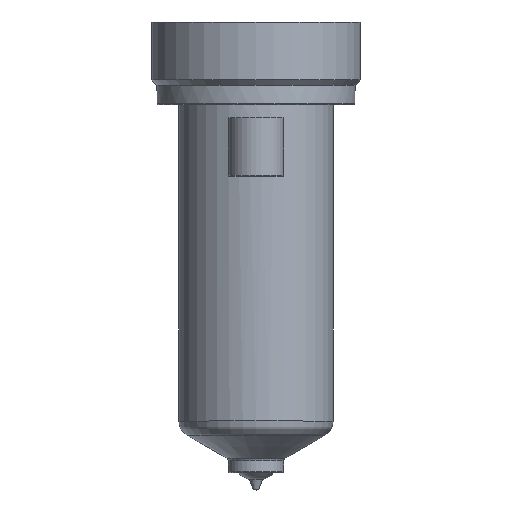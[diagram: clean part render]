
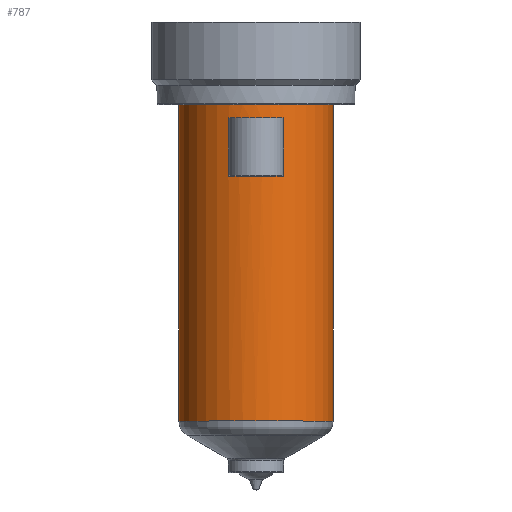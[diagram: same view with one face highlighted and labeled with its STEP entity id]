
A CAD part, top view. The second image highlights one B-rep face of the part: STEP entity #787.
In plain terms, the highlighted cylindrical face has radius 14 mm (diameter 28 mm), a partial arc.
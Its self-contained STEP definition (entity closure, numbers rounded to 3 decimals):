
#195=DIRECTION('',(0.,-1.,0.));
#196=VECTOR('',#195,57.483);
#197=CARTESIAN_POINT('',(14.,0.,0.));
#198=LINE('',#197,#196);
#199=CARTESIAN_POINT('',(0.,-57.483,0.));
#200=DIRECTION('',(0.,1.,0.));
#201=DIRECTION('',(-1.,0.,0.));
#202=AXIS2_PLACEMENT_3D('',#199,#200,#201);
#204=DIRECTION('',(0.,1.,0.));
#205=VECTOR('',#204,57.483);
#206=CARTESIAN_POINT('',(-14.,-57.483,0.));
#207=LINE('',#206,#205);
#208=CARTESIAN_POINT('',(0.,0.,0.));
#209=DIRECTION('',(0.,1.,0.));
#210=DIRECTION('',(-1.,0.,0.));
#211=AXIS2_PLACEMENT_3D('',#208,#209,#210);
#357=DIRECTION('',(0.,-1.,0.));
#358=VECTOR('',#357,10.5);
#359=CARTESIAN_POINT('',(-5.,-2.5,13.077));
#360=LINE('',#359,#358);
#365=CARTESIAN_POINT('',(0.,-13.,0.));
#366=DIRECTION('',(0.,1.,0.));
#367=DIRECTION('',(-0.357,0.,0.934));
#368=AXIS2_PLACEMENT_3D('',#365,#366,#367);
#400=CARTESIAN_POINT('',(0.,-2.5,0.));
#401=DIRECTION('',(0.,-1.,0.));
#402=DIRECTION('',(0.357,0.,0.934));
#403=AXIS2_PLACEMENT_3D('',#400,#401,#402);
#405=DIRECTION('',(0.,-1.,0.));
#406=VECTOR('',#405,10.5);
#407=CARTESIAN_POINT('',(5.,-2.5,13.077));
#408=LINE('',#407,#406);
#466=CARTESIAN_POINT('',(-14.,0.,0.));
#467=CARTESIAN_POINT('',(14.,0.,0.));
#468=VERTEX_POINT('',#466);
#469=VERTEX_POINT('',#467);
#478=CARTESIAN_POINT('',(5.,-2.5,13.077));
#479=VERTEX_POINT('',#478);
#480=CARTESIAN_POINT('',(-5.,-2.5,13.077));
#481=VERTEX_POINT('',#480);
#518=CARTESIAN_POINT('',(14.,-57.483,0.));
#519=VERTEX_POINT('',#518);
#528=CARTESIAN_POINT('',(-14.,-57.483,0.));
#529=VERTEX_POINT('',#528);
#546=CARTESIAN_POINT('',(-5.,-13.,13.077));
#547=CARTESIAN_POINT('',(5.,-13.,13.077));
#548=VERTEX_POINT('',#546);
#549=VERTEX_POINT('',#547);
#765=CARTESIAN_POINT('',(0.,16.4,0.));
#766=DIRECTION('',(0.,-1.,0.));
#767=DIRECTION('',(-1.,0.,0.));
#768=AXIS2_PLACEMENT_3D('',#765,#766,#767);
#769=CYLINDRICAL_SURFACE('',#768,14.);
#770=ORIENTED_EDGE('',*,*,#759,.T.);
#772=ORIENTED_EDGE('',*,*,#771,.F.);
#773=ORIENTED_EDGE('',*,*,#755,.T.);
#774=ORIENTED_EDGE('',*,*,#745,.T.);
#775=EDGE_LOOP('',(#770,#772,#773,#774));
#776=FACE_OUTER_BOUND('',#775,.F.);
#778=ORIENTED_EDGE('',*,*,#777,.T.);
#780=ORIENTED_EDGE('',*,*,#779,.T.);
#782=ORIENTED_EDGE('',*,*,#781,.F.);
#784=ORIENTED_EDGE('',*,*,#783,.T.);
#785=EDGE_LOOP('',(#778,#780,#782,#784));
#786=FACE_BOUND('',#785,.F.);
#787=ADVANCED_FACE('',(#776,#786),#769,.T.);
#203=CIRCLE('',#202,14.);
#212=CIRCLE('',#211,14.);
#369=CIRCLE('',#368,14.);
#404=CIRCLE('',#403,14.);
#745=EDGE_CURVE('',#468,#469,#212,.T.);
#755=EDGE_CURVE('',#529,#468,#207,.T.);
#759=EDGE_CURVE('',#469,#519,#198,.T.);
#771=EDGE_CURVE('',#529,#519,#203,.T.);
#777=EDGE_CURVE('',#481,#548,#360,.T.);
#779=EDGE_CURVE('',#548,#549,#369,.T.);
#781=EDGE_CURVE('',#479,#549,#408,.T.);
#783=EDGE_CURVE('',#479,#481,#404,.T.);
